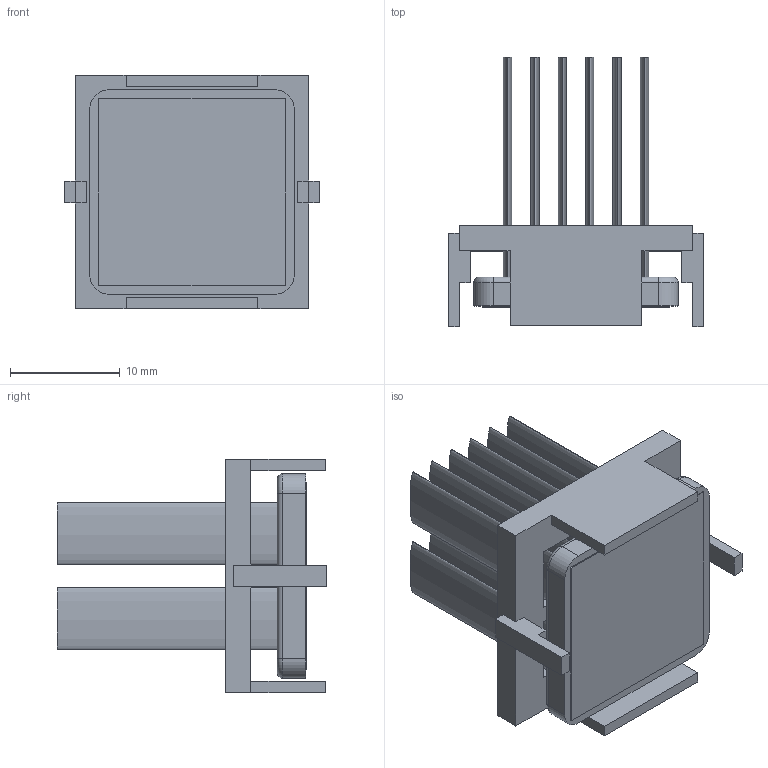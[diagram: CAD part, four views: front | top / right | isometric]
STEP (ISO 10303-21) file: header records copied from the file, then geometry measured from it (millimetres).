
FILE_DESCRIPTION (( 'STEP AP214' ), '1' );
FILE_NAME ('INM19001-23W-2.6BU.STEP', '2023-03-02T18:20:18', ( '' ), ( '' ), 'SwSTEP 2.0', 'SolidWorks 2020', '' );
FILE_SCHEMA (( 'AUTOMOTIVE_DESIGN' ));
Length unit declared in the file: millimetre
Products named in the file (1): INM19001-23W-2.6BU
Bounding box: 23.2 x 24.5 x 21.2 mm (x, y, z)
Volume: 2576.4 mm3; surface area: 5622.7 mm2
Topology: 3 solids, 3 shells, 106 faces, 256 edges, 168 vertices
Faces by surface type: plane 70, bspline 24, cylinder 8, torus 4
Entity records: 4330 total; most frequent: CARTESIAN_POINT 843, ORIENTED_EDGE 512, DIRECTION 394, EDGE_CURVE 256, VECTOR 188, LINE 188, VERTEX_POINT 168, EDGE_LOOP 120
